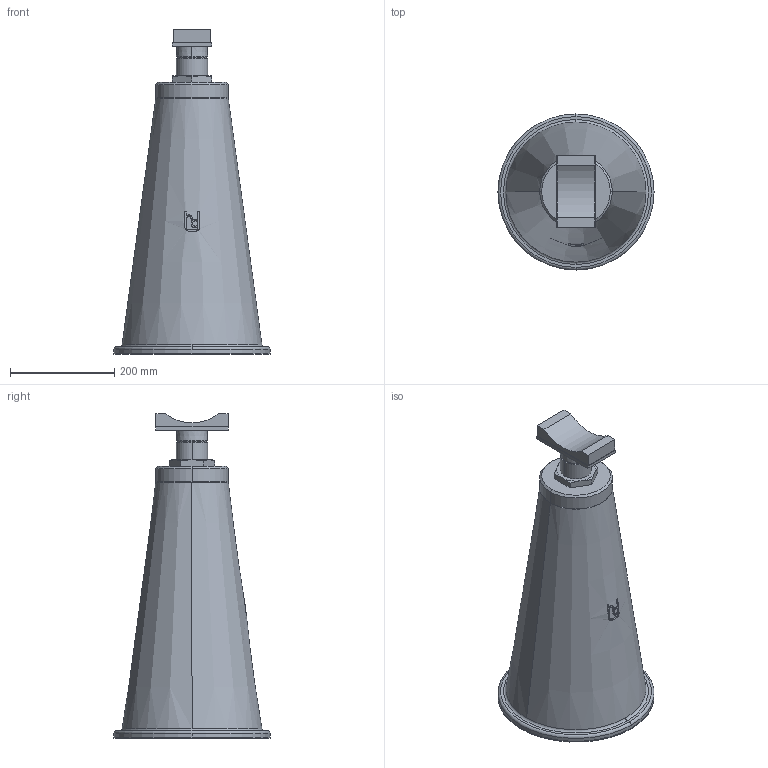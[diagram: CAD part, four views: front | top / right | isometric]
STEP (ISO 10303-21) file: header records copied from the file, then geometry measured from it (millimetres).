
FILE_DESCRIPTION(('STEP AP214'),'1');
FILE_NAME('RSRFC_DN150.stp','2018-06-27T09:43:54',(' '),(' '),'Spatial InterOp 3D',' ',' ');
FILE_SCHEMA(('automotive_design'));
Length unit declared in the file: millimetre
Products named in the file (6): 1; 2; 3; 4; 5; 6
Bounding box: 300 x 300 x 623.11 mm (x, y, z)
Volume: 18751698.1 mm3; surface area: 718614.1 mm2
Topology: 6 solids, 6 shells, 113 faces, 279 edges, 183 vertices
Faces by surface type: plane 50, cylinder 32, cone 23, torus 8
Entity records: 4957 total; most frequent: CARTESIAN_POINT 1243, DIRECTION 569, ORIENTED_EDGE 558, EDGE_CURVE 279, AXIS2_PLACEMENT_3D 219, VERTEX_POINT 183, LINE 131, VECTOR 131
